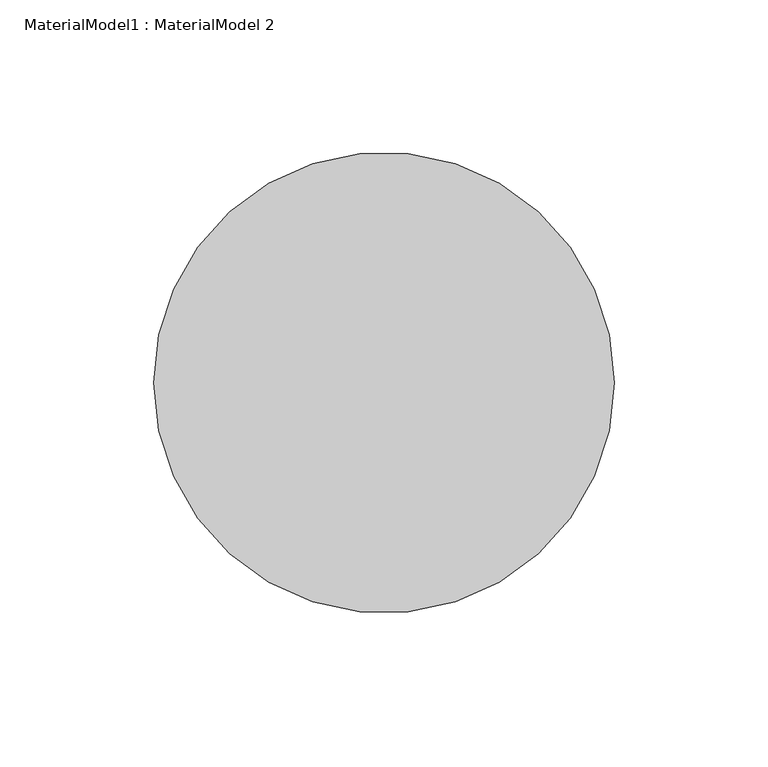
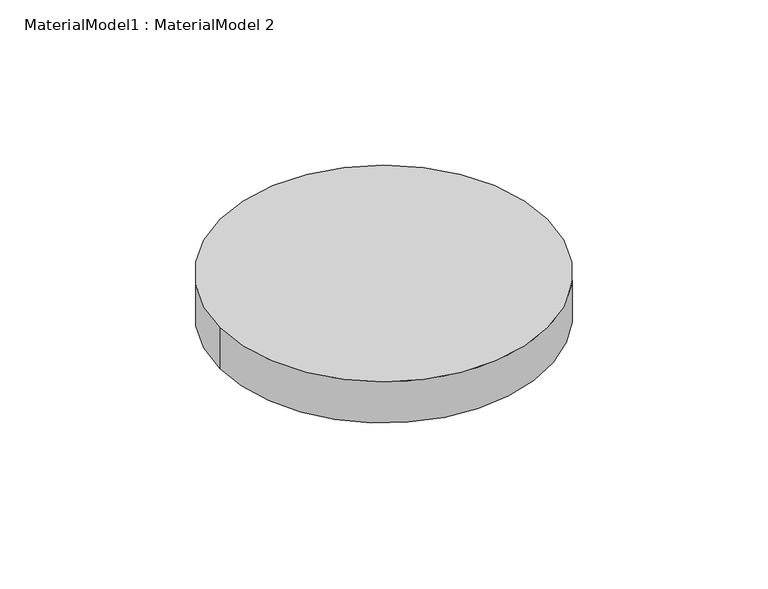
"""IFC4 building model written with IfcOpenShell, lengths in millimetres: proxy geometry, MaterialModel1 : MaterialModel 2."""

from ifc_helpers import new_model, si_unit, point, origin, origin_with_axes, origin_2d, place, context, project, spatial, circle_curve, trimmed, segment, composite_curve, outline, extrude, source, transform, mapped, element, save


def materialmodel1_materialmodel_2_5a34246c(model_context):
    return source(origin(), model_context, "Body", "SweptSolid", [
        extrude(outline(composite_curve([segment(trimmed(circle_curve(origin_2d(), 75.0), [point((-75.0, 0.0))], [point((75.0, 0.0))], False, "CARTESIAN"), True, "CONTINUOUS"), segment(trimmed(circle_curve(origin_2d(), 75.0), [point((75.0, 0.0))], [point((-75.0, 0.0))], False, "CARTESIAN"), True, "CONTINUOUS")], self_intersect=False)), origin_with_axes(), (0.0, 0.0, 1.0), 20.0),
    ])


if __name__ == "__main__":
    model = new_model("IFC4")
    model_context = context("Model", 3, world=origin())
    ifc_project = project(units=[si_unit("LENGTHUNIT", "METRE", prefix="MILLI")], contexts=[model_context])
    site = spatial("IfcSite", under=ifc_project)
    building = spatial("IfcBuilding", under=site)
    placement = place(None, origin())
    materialmodel1_materialmodel_2_shape = materialmodel1_materialmodel_2_5a34246c(model_context)
    element("IfcBuildingElementProxy", 1, Name="MaterialModel1 : MaterialModel 2", ObjectType="MaterialModel1 : MaterialModel 2", at=placement, inside=building, context=model_context, shape_type="MappedRepresentation", body=[
        mapped(materialmodel1_materialmodel_2_shape, transform((0.0, 0.0, 0.0), x_axis=(1.0, 0.0, 0.0), y_axis=(0.0, 1.0, 0.0), z_axis=(0.0, 0.0, 1.0))),
    ])
    save(model, "model.ifc")
